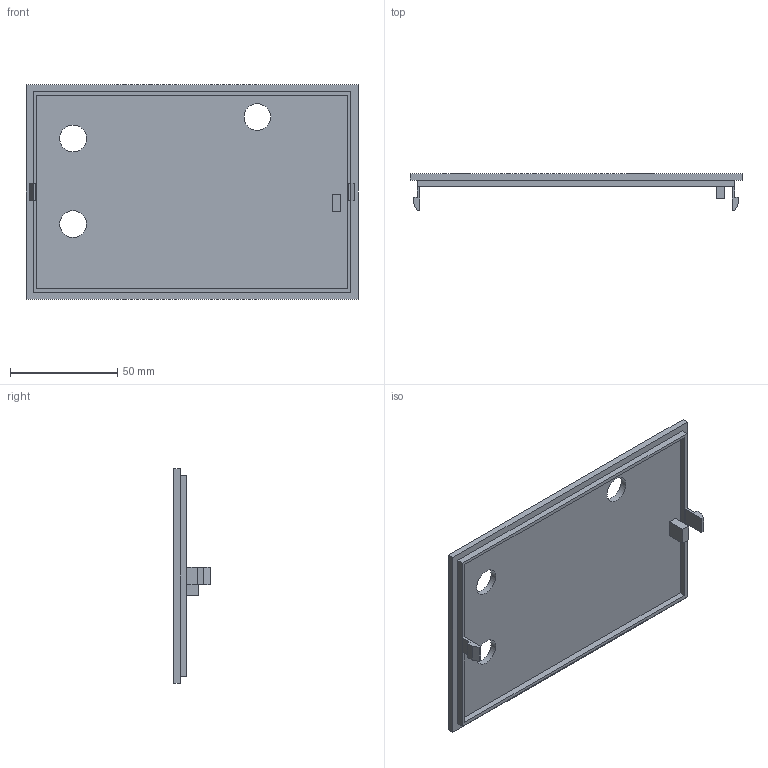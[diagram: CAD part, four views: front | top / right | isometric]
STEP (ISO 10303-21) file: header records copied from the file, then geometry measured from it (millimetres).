
FILE_DESCRIPTION(('Open CASCADE Model'),'2;1');
FILE_NAME('Open CASCADE Shape Model','2026-11-05T16:41:56',('Author'),( 'Open CASCADE'),'Open CASCADE STEP processor 7.8','Open CASCADE 7.8' ,'Unknown');
FILE_SCHEMA(('AUTOMOTIVE_DESIGN { 1 0 10303 214 1 1 1 1 }'));
Length unit declared in the file: millimetre
Products named in the file (1): Open CASCADE STEP translator 7.8 4
Bounding box: 155 x 17 x 100 mm (x, y, z)
Volume: 48293.2 mm3; surface area: 35685.6 mm2
Topology: 1 solids, 1 shells, 40 faces, 99 edges, 66 vertices
Faces by surface type: plane 37, cylinder 3
Full cylindrical faces by diameter (mm): 12.4 x1, 12.5 x2
Entity records: 2448 total; most frequent: CARTESIAN_POINT 434, DIRECTION 355, LINE 255, VECTOR 255, ORIENTED_EDGE 198, PCURVE 198, DEFINITIONAL_REPRESENTATION 198, EDGE_CURVE 99
